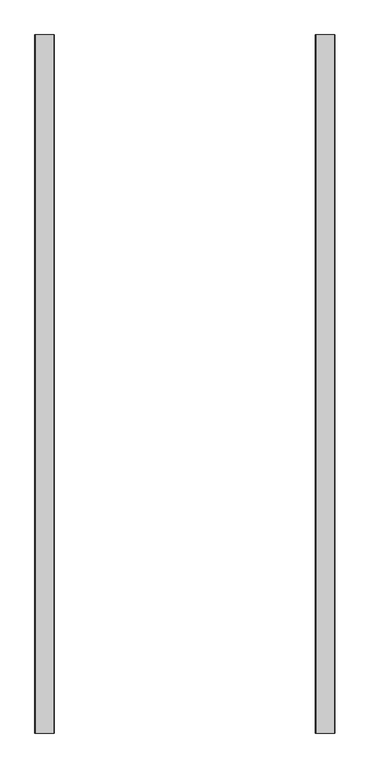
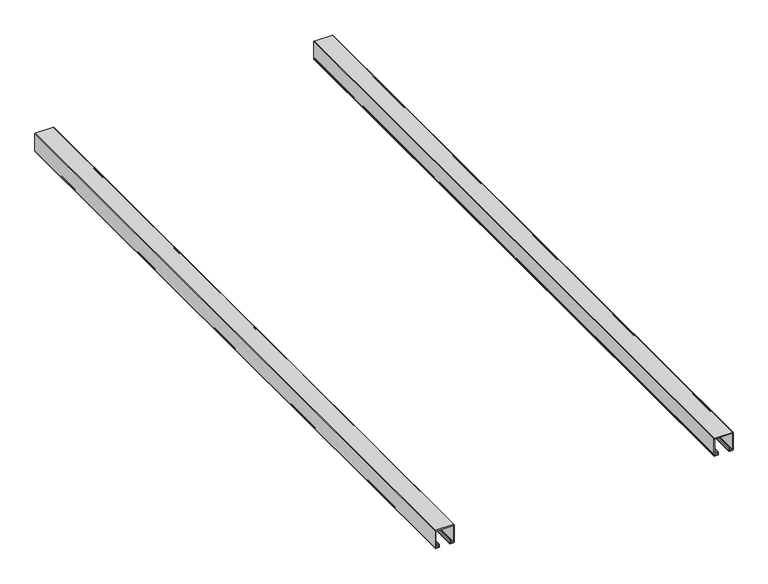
"""IFC4 building model written with IfcOpenShell, lengths in millimetres: proxy geometry, modelo_altus 12.3dm."""

from ifc_helpers import new_model, si_unit, point, frame, frame_2d, origin, place, context, project, spatial, polyline, circle_curve, trimmed, segment, composite_curve, outline, extrude, source, transform, mapped, element, save


def generic_models_58cd6918(model_context):
    return source(origin(), model_context, "Body", "SweptSolid", [
        extrude(outline(composite_curve([segment(polyline([(-52.5674225, -3052.2584657), (-48.9674225, -3052.2584657)]), True, "CONTINUOUS"), segment(trimmed(circle_curve(frame_2d((-48.9674225, -3053.2584657)), 1.0), [point((-48.9674225, -3052.2584657))], [point((-48.9674225, -3054.2584657))], False, "CARTESIAN"), True, "CONTINUOUS"), segment(polyline([(-48.9674225, -3054.2584657), (-54.0674225, -3054.2584657)]), True, "CONTINUOUS"), segment(trimmed(circle_curve(frame_2d((-54.0674225, -3053.2584657)), 1.0), [point((-54.0674225, -3054.2584657))], [point((-55.0674225, -3053.2584657))], False, "CARTESIAN"), True, "CONTINUOUS"), segment(polyline([(-55.0674225, -3053.2584657), (-55.0674225, -3045.7084657)]), True, "CONTINUOUS"), segment(trimmed(circle_curve(frame_2d((-54.0674225, -3045.7084657)), 1.0), [point((-55.0674225, -3045.7084657))], [point((-54.0674225, -3044.7084657))], False, "CARTESIAN"), True, "CONTINUOUS"), segment(polyline([(-54.0674225, -3044.7084657), (-14.7674225, -3044.7084657)]), True, "CONTINUOUS"), segment(trimmed(circle_curve(frame_2d((-14.7674225, -3045.7084657)), 1.0), [point((-14.7674225, -3044.7084657))], [point((-13.7674225, -3045.7084657))], False, "CARTESIAN"), True, "CONTINUOUS"), segment(polyline([(-13.7674225, -3045.7084657), (-13.7674225, -3085.0084657)]), True, "CONTINUOUS"), segment(trimmed(circle_curve(frame_2d((-14.7674225, -3085.0084657)), 1.0), [point((-13.7674225, -3085.0084657))], [point((-14.7674225, -3086.0084657))], False, "CARTESIAN"), True, "CONTINUOUS"), segment(polyline([(-14.7674225, -3086.0084657), (-54.0674225, -3086.0084657)]), True, "CONTINUOUS"), segment(trimmed(circle_curve(frame_2d((-54.0674225, -3085.0084657)), 1.0), [point((-54.0674225, -3086.0084657))], [point((-55.0674225, -3085.0084657))], False, "CARTESIAN"), True, "CONTINUOUS"), segment(polyline([(-55.0674225, -3085.0084657), (-55.0674225, -3077.4584657)]), True, "CONTINUOUS"), segment(trimmed(circle_curve(frame_2d((-54.0674225, -3077.4584657)), 1.0), [point((-55.0674225, -3077.4584657))], [point((-54.0674225, -3076.4584657))], False, "CARTESIAN"), True, "CONTINUOUS"), segment(polyline([(-54.0674225, -3076.4584657), (-48.9674225, -3076.4584657)]), True, "CONTINUOUS"), segment(trimmed(circle_curve(frame_2d((-48.9674225, -3077.4584657)), 1.0), [point((-48.9674225, -3076.4584657))], [point((-48.9674225, -3078.4584657))], False, "CARTESIAN"), True, "CONTINUOUS"), segment(polyline([(-48.9674225, -3078.4584657), (-52.5674225, -3078.4584657)]), True, "CONTINUOUS"), segment(trimmed(circle_curve(frame_2d((-52.5674225, -3078.9584657)), 0.5), [point((-52.5674225, -3078.4584657))], [point((-53.0674225, -3078.9584657))], True, "CARTESIAN"), True, "CONTINUOUS"), segment(polyline([(-53.0674225, -3078.9584657), (-53.0674225, -3083.5084657)]), True, "CONTINUOUS"), segment(trimmed(circle_curve(frame_2d((-52.5674225, -3083.5084657)), 0.5), [point((-53.0674225, -3083.5084657))], [point((-52.5674225, -3084.0084657))], True, "CARTESIAN"), True, "CONTINUOUS"), segment(polyline([(-52.5674225, -3084.0084657), (-16.2674225, -3084.0084657)]), True, "CONTINUOUS"), segment(trimmed(circle_curve(frame_2d((-16.2674225, -3083.5084657)), 0.5), [point((-16.2674225, -3084.0084657))], [point((-15.7674225, -3083.5084657))], True, "CARTESIAN"), True, "CONTINUOUS"), segment(polyline([(-15.7674225, -3083.5084657), (-15.7674225, -3047.2084657)]), True, "CONTINUOUS"), segment(trimmed(circle_curve(frame_2d((-16.2674225, -3047.2084657)), 0.5), [point((-15.7674225, -3047.2084657))], [point((-16.2674225, -3046.7084657))], True, "CARTESIAN"), True, "CONTINUOUS"), segment(polyline([(-16.2674225, -3046.7084657), (-52.5674225, -3046.7084657)]), True, "CONTINUOUS"), segment(trimmed(circle_curve(frame_2d((-52.5674225, -3047.2084657)), 0.5), [point((-52.5674225, -3046.7084657))], [point((-53.0674225, -3047.2084657))], True, "CARTESIAN"), True, "CONTINUOUS"), segment(polyline([(-53.0674225, -3047.2084657), (-53.0674225, -3051.7584657)]), True, "CONTINUOUS"), segment(trimmed(circle_curve(frame_2d((-52.5674225, -3051.7584657)), 0.5), [point((-53.0674225, -3051.7584657))], [point((-52.5674225, -3052.2584657))], True, "CARTESIAN"), True, "CONTINUOUS")], self_intersect=False)), frame((0.0, -142.0904841, 0.0), z_axis=(0.0, 1.0, 0.0), x_axis=(0.0, 0.0, 1.0)), (0.0, 0.0, 1.0), 1498.6),
        extrude(outline(composite_curve([segment(polyline([(-52.5674225, -2449.0084657), (-48.9674225, -2449.0084657)]), True, "CONTINUOUS"), segment(trimmed(circle_curve(frame_2d((-48.9674225, -2450.0084657)), 1.0), [point((-48.9674225, -2449.0084657))], [point((-48.9674225, -2451.0084657))], False, "CARTESIAN"), True, "CONTINUOUS"), segment(polyline([(-48.9674225, -2451.0084657), (-54.0674225, -2451.0084657)]), True, "CONTINUOUS"), segment(trimmed(circle_curve(frame_2d((-54.0674225, -2450.0084657)), 1.0), [point((-54.0674225, -2451.0084657))], [point((-55.0674225, -2450.0084657))], False, "CARTESIAN"), True, "CONTINUOUS"), segment(polyline([(-55.0674225, -2450.0084657), (-55.0674225, -2442.4584657)]), True, "CONTINUOUS"), segment(trimmed(circle_curve(frame_2d((-54.0674225, -2442.4584657)), 1.0), [point((-55.0674225, -2442.4584657))], [point((-54.0674225, -2441.4584657))], False, "CARTESIAN"), True, "CONTINUOUS"), segment(polyline([(-54.0674225, -2441.4584657), (-14.7674225, -2441.4584657)]), True, "CONTINUOUS"), segment(trimmed(circle_curve(frame_2d((-14.7674225, -2442.4584657)), 1.0), [point((-14.7674225, -2441.4584657))], [point((-13.7674225, -2442.4584657))], False, "CARTESIAN"), True, "CONTINUOUS"), segment(polyline([(-13.7674225, -2442.4584657), (-13.7674225, -2481.7584657)]), True, "CONTINUOUS"), segment(trimmed(circle_curve(frame_2d((-14.7674225, -2481.7584657)), 1.0), [point((-13.7674225, -2481.7584657))], [point((-14.7674225, -2482.7584657))], False, "CARTESIAN"), True, "CONTINUOUS"), segment(polyline([(-14.7674225, -2482.7584657), (-54.0674225, -2482.7584657)]), True, "CONTINUOUS"), segment(trimmed(circle_curve(frame_2d((-54.0674225, -2481.7584657)), 1.0), [point((-54.0674225, -2482.7584657))], [point((-55.0674225, -2481.7584657))], False, "CARTESIAN"), True, "CONTINUOUS"), segment(polyline([(-55.0674225, -2481.7584657), (-55.0674225, -2474.2084657)]), True, "CONTINUOUS"), segment(trimmed(circle_curve(frame_2d((-54.0674225, -2474.2084657)), 1.0), [point((-55.0674225, -2474.2084657))], [point((-54.0674225, -2473.2084657))], False, "CARTESIAN"), True, "CONTINUOUS"), segment(polyline([(-54.0674225, -2473.2084657), (-48.9674225, -2473.2084657)]), True, "CONTINUOUS"), segment(trimmed(circle_curve(frame_2d((-48.9674225, -2474.2084657)), 1.0), [point((-48.9674225, -2473.2084657))], [point((-48.9674225, -2475.2084657))], False, "CARTESIAN"), True, "CONTINUOUS"), segment(polyline([(-48.9674225, -2475.2084657), (-52.5674225, -2475.2084657)]), True, "CONTINUOUS"), segment(trimmed(circle_curve(frame_2d((-52.5674225, -2475.7084657)), 0.5), [point((-52.5674225, -2475.2084657))], [point((-53.0674225, -2475.7084657))], True, "CARTESIAN"), True, "CONTINUOUS"), segment(polyline([(-53.0674225, -2475.7084657), (-53.0674225, -2480.2584657)]), True, "CONTINUOUS"), segment(trimmed(circle_curve(frame_2d((-52.5674225, -2480.2584657)), 0.5), [point((-53.0674225, -2480.2584657))], [point((-52.5674225, -2480.7584657))], True, "CARTESIAN"), True, "CONTINUOUS"), segment(polyline([(-52.5674225, -2480.7584657), (-16.2674225, -2480.7584657)]), True, "CONTINUOUS"), segment(trimmed(circle_curve(frame_2d((-16.2674225, -2480.2584657)), 0.5), [point((-16.2674225, -2480.7584657))], [point((-15.7674225, -2480.2584657))], True, "CARTESIAN"), True, "CONTINUOUS"), segment(polyline([(-15.7674225, -2480.2584657), (-15.7674225, -2443.9584657)]), True, "CONTINUOUS"), segment(trimmed(circle_curve(frame_2d((-16.2674225, -2443.9584657)), 0.5), [point((-15.7674225, -2443.9584657))], [point((-16.2674225, -2443.4584657))], True, "CARTESIAN"), True, "CONTINUOUS"), segment(polyline([(-16.2674225, -2443.4584657), (-52.5674225, -2443.4584657)]), True, "CONTINUOUS"), segment(trimmed(circle_curve(frame_2d((-52.5674225, -2443.9584657)), 0.5), [point((-52.5674225, -2443.4584657))], [point((-53.0674225, -2443.9584657))], True, "CARTESIAN"), True, "CONTINUOUS"), segment(polyline([(-53.0674225, -2443.9584657), (-53.0674225, -2448.5084657)]), True, "CONTINUOUS"), segment(trimmed(circle_curve(frame_2d((-52.5674225, -2448.5084657)), 0.5), [point((-53.0674225, -2448.5084657))], [point((-52.5674225, -2449.0084657))], True, "CARTESIAN"), True, "CONTINUOUS")], self_intersect=False)), frame((0.0, -142.0904841, 0.0), z_axis=(0.0, 1.0, 0.0), x_axis=(0.0, 0.0, 1.0)), (0.0, 0.0, 1.0), 1498.6),
    ])


if __name__ == "__main__":
    model = new_model("IFC4")
    model_context = context("Model", 3, world=origin())
    ifc_project = project(units=[si_unit("LENGTHUNIT", "METRE", prefix="MILLI")], contexts=[model_context])
    site = spatial("IfcSite", under=ifc_project)
    building = spatial("IfcBuilding", under=site)
    placement = place(None, origin())
    generic_models_shape = generic_models_58cd6918(model_context)
    element("IfcBuildingElementProxy", 1, Name="modelo_altus 12.3dm", ObjectType="modelo_altus 12.3dm", at=placement, inside=building, context=model_context, shape_type="MappedRepresentation", body=[
        mapped(generic_models_shape, transform((0.0, 0.0, 0.0), x_axis=(1.0, 0.0, 0.0), y_axis=(0.0, 1.0, 0.0), z_axis=(0.0, 0.0, 1.0))),
    ])
    save(model, "model.ifc")
